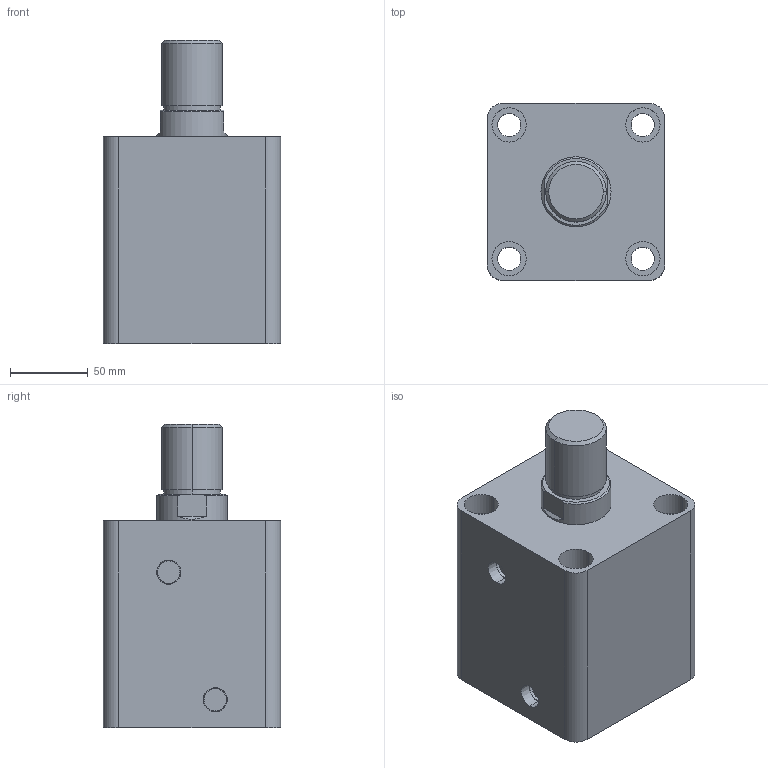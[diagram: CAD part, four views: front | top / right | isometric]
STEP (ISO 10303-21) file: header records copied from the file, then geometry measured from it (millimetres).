
FILE_DESCRIPTION (( 'STEP AP203' ), '1' );
FILE_NAME ('HTB-SD80-55W.STEP', '2019-10-07T08:28:11', ( '微软用户' ), ( '微软中国' ), 'SwSTEP 2.0', 'SolidWorks 2012', '' );
FILE_SCHEMA (( 'CONFIG_CONTROL_DESIGN' ));
Length unit declared in the file: millimetre
Products named in the file (3): HTB-SD80-55W; HTB-SD80-55W活塞杆; HTB-SD80-55掛极
Assembly tree (2 placements, depth 2):
  HTB-SD80-55W
    HTB-SD80-55掛极
    HTB-SD80-55W活塞杆
Bounding box: 114 x 114 x 195 mm (x, y, z)
Volume: 1485192.4 mm3; surface area: 182281.9 mm2
Topology: 2 solids, 2 shells, 87 faces, 190 edges, 124 vertices
Faces by surface type: cylinder 44, plane 29, cone 8, torus 6
Entity records: 2761 total; most frequent: DIRECTION 478, CARTESIAN_POINT 434, ORIENTED_EDGE 380, AXIS2_PLACEMENT_3D 204, EDGE_CURVE 190, VERTEX_POINT 124, EDGE_LOOP 112, CIRCLE 112
